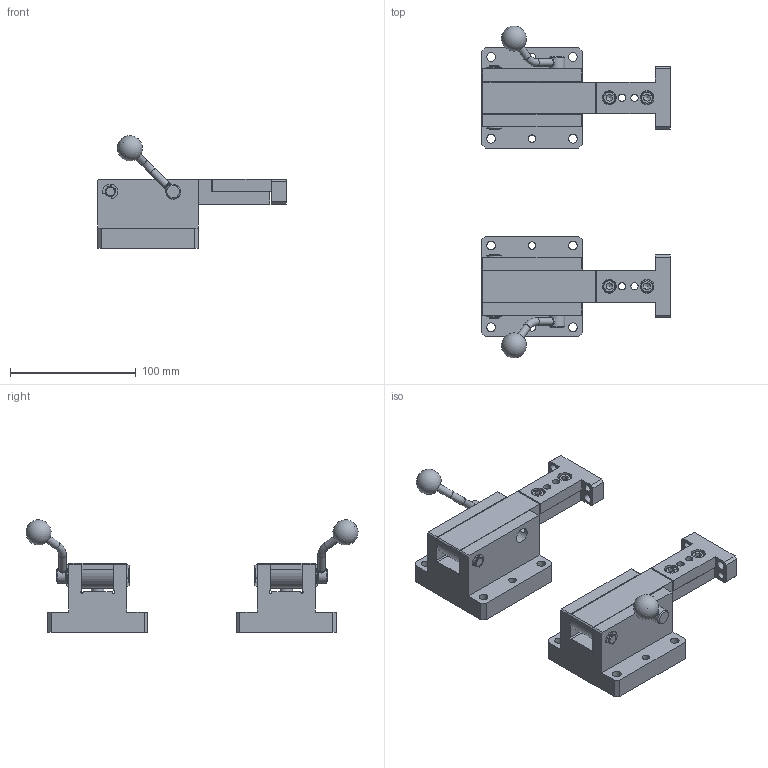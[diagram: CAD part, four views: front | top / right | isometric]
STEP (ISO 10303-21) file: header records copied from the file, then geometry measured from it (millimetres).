
FILE_DESCRIPTION(/* description */ (''),/* implementation_level */ '2;1');
FILE_NAME(/* name */ 'HCFZ-80-F2-L.R.stp',/* time_stamp */ '2018-08-28T11:28:27+08:00',/* author */ (''),/* organization */ (''),/* preprocessor_version */ 'ST-DEVELOPER v16',/* originating_system */ 'SIEMENS PLM Software NX 11.0',/* authorisation */ '');
FILE_SCHEMA (('AUTOMOTIVE_DESIGN { 1 0 10303 214 3 1 1 1 }'));
Length unit declared in the file: millimetre
Products named in the file (1): WSFZT80-L150-Y_stp
Bounding box: 150 x 264.07 x 89.34 mm (x, y, z)
Volume: 542875.4 mm3; surface area: 131176.1 mm2
Topology: 40 solids, 40 shells, 608 faces, 1500 edges, 980 vertices
Faces by surface type: plane 284, cylinder 198, cone 70, torus 32, bspline 16, sphere 8
Full cylindrical faces by diameter (mm): 2.458 x2, 2.459 x2, 2.5 x2, 2.675 x2, 3 x2, 3.2 x2, 4.9 x10, 4.915 x4, 4.917 x4, 5 x6, 5.35 x2, 5.8 x12, 6 x24, 7 x16, 8 x14, 10 x8, 11 x4, 12 x12
Entity records: 21072 total; most frequent: CARTESIAN_POINT 4193, DIRECTION 2746, ORIENTED_EDGE 2376, EDGE_CURVE 1188, AXIS2_PLACEMENT_3D 1091, EDGE_LOOP 962, VERTEX_POINT 894, FACE_BOUND 656
